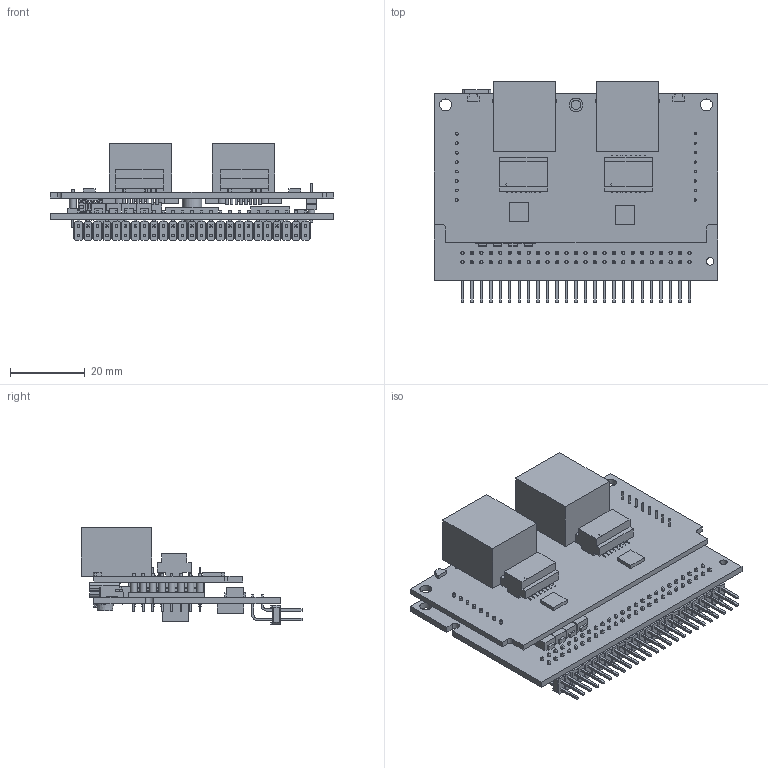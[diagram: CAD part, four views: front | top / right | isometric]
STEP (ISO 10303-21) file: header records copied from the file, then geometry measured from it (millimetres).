
FILE_DESCRIPTION(/* description */ (''),/* implementation_level */ '2;1');
FILE_NAME(/* name */ 'PLATINE MC5004 P STO ET.stp',/* time_stamp */ '2017-11-21T10:23:59+01:00',/* author */ ('DR. FRITZ FAULHABER GmbH & Co. KG'),/* organization */ ('DR. FRITZ FAULHABER GmbH & Co. KG'),/* preprocessor_version */ 'ST-DEVELOPER v16',/* originating_system */ 'SIEMENS PLM Software NX 10.0',/* authorisation */ '');
FILE_SCHEMA (('AUTOMOTIVE_DESIGN { 1 0 10303 214 3 1 1 1 }'));
Products named in the file (1): H00001397_A
Bounding box: 76 x 59.5 x 26.03 mm (x, y, z)
Volume: 20232.1 mm3; surface area: 24597.2 mm2
Topology: 1 solids, 1 shells, 2920 faces, 8007 edges, 5120 vertices
Faces by surface type: plane 2458, cylinder 435, bspline 18, cone 9
Full cylindrical faces by diameter (mm): 0.5 x16, 0.6 x16, 0.7 x21, 0.76 x16, 0.9 x16, 0.96 x8, 1 x12, 1.6 x4, 1.83 x24, 2 x1, 2.5 x1, 3.1 x4, 3.2 x5, 3.25 x4, 3.6 x1, 3.7 x1, 5.25 x1
Entity records: 91437 total; most frequent: CARTESIAN_POINT 17096, ORIENTED_EDGE 15704, DIRECTION 14380, EDGE_CURVE 7852, LINE 6794, VECTOR 6794, VERTEX_POINT 5070, AXIS2_PLACEMENT_3D 3793
